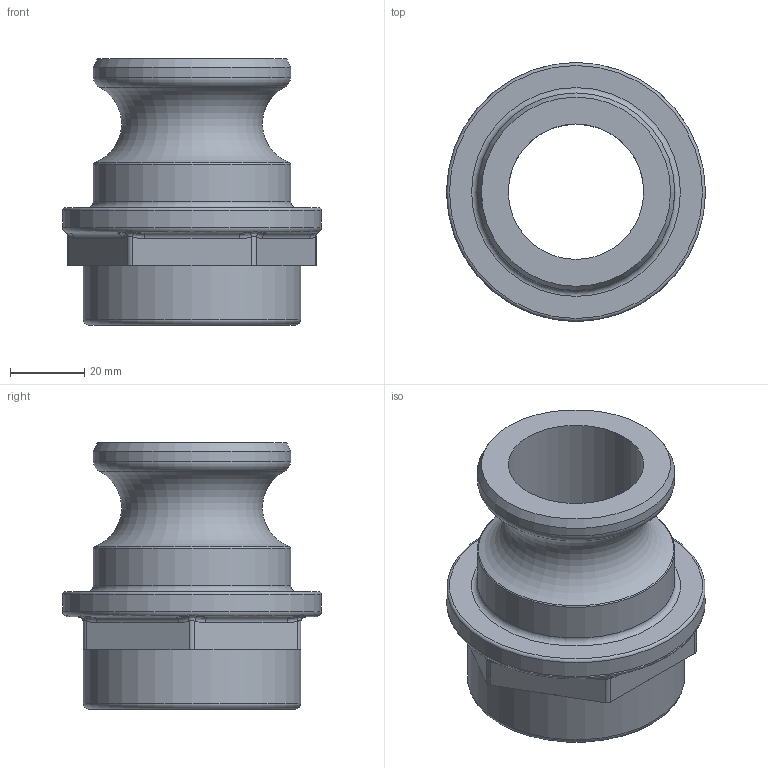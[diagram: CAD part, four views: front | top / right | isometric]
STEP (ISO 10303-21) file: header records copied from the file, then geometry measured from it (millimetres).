
FILE_DESCRIPTION(/* description */ ('Alibre Inc.'),/* implementation_level */ '2;1');
FILE_NAME(/* name */ 'export0',/* time_stamp */ '2016-02-21T11:15:37-05:00',/* author */ (''),/* organization */ (''),/* preprocessor_version */ 'ST-DEVELOPER v14',/* originating_system */ 'Alibre',/* authorisation */ '');
FILE_SCHEMA (('CONFIG_CONTROL_DESIGN'));
Length unit declared in the file: centimetre
Products named in the file (1): ID_1
Bounding box: 69.85 x 69.85 x 71.88 mm (x, y, z)
Volume: 78226.6 mm3; surface area: 28866 mm2
Topology: 1 solids, 1 shells, 96 faces, 237 edges, 145 vertices
Faces by surface type: cone 29, plane 22, bspline 21, cylinder 17, torus 7
Full cylindrical faces by diameter (mm): 36.576 x1, 53.34 x2, 58.674 x1, 69.85 x1
Entity records: 31017 total; most frequent: CARTESIAN_POINT 29017, ORIENTED_EDGE 442, DIRECTION 295, EDGE_CURVE 221, VERTEX_POINT 142, AXIS2_PLACEMENT_3D 129, EDGE_LOOP 113, FACE_BOUND 113
